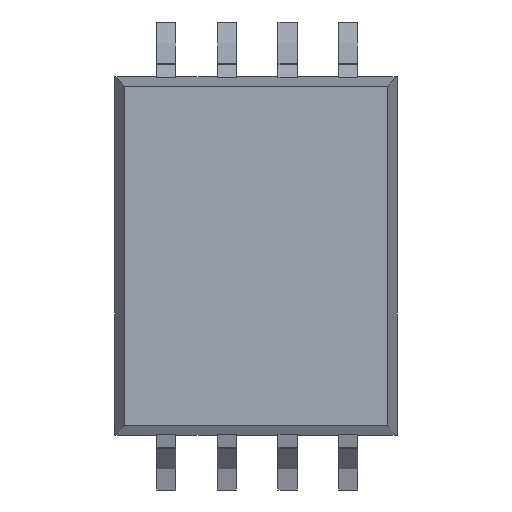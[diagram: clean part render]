
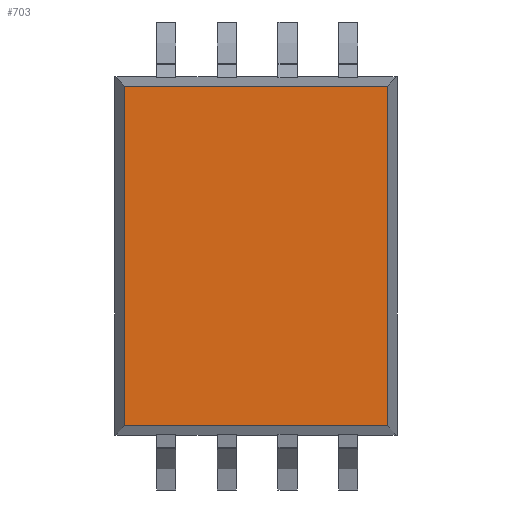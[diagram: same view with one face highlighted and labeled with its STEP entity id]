
A CAD part, top view. The second image highlights one B-rep face of the part: STEP entity #703.
In plain terms, the highlighted planar face has unit normal (0, 0, 1).
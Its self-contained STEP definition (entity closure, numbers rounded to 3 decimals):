
#32 = PLANE('',#33);
#33 = AXIS2_PLACEMENT_3D('',#34,#35,#36);
#34 = CARTESIAN_POINT('',(2.852,0.,
    1.662));
#35 = DIRECTION('',(0.982,0.,0.187));
#36 = DIRECTION('',(-0.187,0.,0.982));
#57 = VERTEX_POINT('',#58);
#58 = CARTESIAN_POINT('',(2.75,3.55,2.2));
#72 = PLANE('',#73);
#73 = AXIS2_PLACEMENT_3D('',#74,#75,#76);
#74 = CARTESIAN_POINT('',(0.,3.653,1.66));
#75 = DIRECTION('',(0.,0.982,0.187));
#76 = DIRECTION('',(0.,-0.187,0.982));
#84 = EDGE_CURVE('',#85,#57,#87,.T.);
#85 = VERTEX_POINT('',#86);
#86 = CARTESIAN_POINT('',(2.75,-3.55,2.2));
#87 = SURFACE_CURVE('',#88,(#92,#99),.PCURVE_S1.);
#88 = LINE('',#89,#90);
#89 = CARTESIAN_POINT('',(2.75,-3.55,2.2));
#90 = VECTOR('',#91,1.);
#91 = DIRECTION('',(0.,1.,0.));
#92 = PCURVE('',#32,#93);
#93 = DEFINITIONAL_REPRESENTATION('',(#94),#98);
#94 = LINE('',#95,#96);
#95 = CARTESIAN_POINT('',(0.547,3.55));
#96 = VECTOR('',#97,1.);
#97 = DIRECTION('',(0.,-1.));
#98 = ( GEOMETRIC_REPRESENTATION_CONTEXT(2) 
PARAMETRIC_REPRESENTATION_CONTEXT() REPRESENTATION_CONTEXT('2D SPACE',''
  ) );
#99 = PCURVE('',#100,#105);
#100 = PLANE('',#101);
#101 = AXIS2_PLACEMENT_3D('',#102,#103,#104);
#102 = CARTESIAN_POINT('',(0.,0.,2.2)
  );
#103 = DIRECTION('',(0.,0.,1.));
#104 = DIRECTION('',(1.,0.,0.));
#105 = DEFINITIONAL_REPRESENTATION('',(#106),#110);
#106 = LINE('',#107,#108);
#107 = CARTESIAN_POINT('',(2.75,-3.55));
#108 = VECTOR('',#109,1.);
#109 = DIRECTION('',(0.,1.));
#110 = ( GEOMETRIC_REPRESENTATION_CONTEXT(2) 
PARAMETRIC_REPRESENTATION_CONTEXT() REPRESENTATION_CONTEXT('2D SPACE',''
  ) );
#126 = PLANE('',#127);
#127 = AXIS2_PLACEMENT_3D('',#128,#129,#130);
#128 = CARTESIAN_POINT('',(0.,-3.653,1.66));
#129 = DIRECTION('',(0.,-0.982,0.187)
  );
#130 = DIRECTION('',(0.,-0.187,-0.982));
#253 = VERTEX_POINT('',#254);
#254 = CARTESIAN_POINT('',(-2.75,3.55,2.2));
#268 = PLANE('',#269);
#269 = AXIS2_PLACEMENT_3D('',#270,#271,#272);
#270 = CARTESIAN_POINT('',(-2.852,0.,1.662));
#271 = DIRECTION('',(-0.982,0.,0.187)
  );
#272 = DIRECTION('',(-0.187,0.,-0.982));
#280 = EDGE_CURVE('',#57,#253,#281,.T.);
#281 = SURFACE_CURVE('',#282,(#286,#293),.PCURVE_S1.);
#282 = LINE('',#283,#284);
#283 = CARTESIAN_POINT('',(2.75,3.55,2.2));
#284 = VECTOR('',#285,1.);
#285 = DIRECTION('',(-1.,0.,0.));
#286 = PCURVE('',#72,#287);
#287 = DEFINITIONAL_REPRESENTATION('',(#288),#292);
#288 = LINE('',#289,#290);
#289 = CARTESIAN_POINT('',(0.55,2.75));
#290 = VECTOR('',#291,1.);
#291 = DIRECTION('',(0.,-1.));
#292 = ( GEOMETRIC_REPRESENTATION_CONTEXT(2) 
PARAMETRIC_REPRESENTATION_CONTEXT() REPRESENTATION_CONTEXT('2D SPACE',''
  ) );
#293 = PCURVE('',#100,#294);
#294 = DEFINITIONAL_REPRESENTATION('',(#295),#299);
#295 = LINE('',#296,#297);
#296 = CARTESIAN_POINT('',(2.75,3.55));
#297 = VECTOR('',#298,1.);
#298 = DIRECTION('',(-1.,0.));
#299 = ( GEOMETRIC_REPRESENTATION_CONTEXT(2) 
PARAMETRIC_REPRESENTATION_CONTEXT() REPRESENTATION_CONTEXT('2D SPACE',''
  ) );
#703 = ADVANCED_FACE('',(#704),#100,.T.);
#704 = FACE_BOUND('',#705,.T.);
#705 = EDGE_LOOP('',(#706,#707,#708,#731));
#706 = ORIENTED_EDGE('',*,*,#84,.T.);
#707 = ORIENTED_EDGE('',*,*,#280,.T.);
#708 = ORIENTED_EDGE('',*,*,#709,.T.);
#709 = EDGE_CURVE('',#253,#710,#712,.T.);
#710 = VERTEX_POINT('',#711);
#711 = CARTESIAN_POINT('',(-2.75,-3.55,2.2));
#712 = SURFACE_CURVE('',#713,(#717,#724),.PCURVE_S1.);
#713 = LINE('',#714,#715);
#714 = CARTESIAN_POINT('',(-2.75,3.55,2.2));
#715 = VECTOR('',#716,1.);
#716 = DIRECTION('',(0.,-1.,0.));
#717 = PCURVE('',#100,#718);
#718 = DEFINITIONAL_REPRESENTATION('',(#719),#723);
#719 = LINE('',#720,#721);
#720 = CARTESIAN_POINT('',(-2.75,3.55));
#721 = VECTOR('',#722,1.);
#722 = DIRECTION('',(0.,-1.));
#723 = ( GEOMETRIC_REPRESENTATION_CONTEXT(2) 
PARAMETRIC_REPRESENTATION_CONTEXT() REPRESENTATION_CONTEXT('2D SPACE',''
  ) );
#724 = PCURVE('',#268,#725);
#725 = DEFINITIONAL_REPRESENTATION('',(#726),#730);
#726 = LINE('',#727,#728);
#727 = CARTESIAN_POINT('',(-0.547,-3.55));
#728 = VECTOR('',#729,1.);
#729 = DIRECTION('',(0.,1.));
#730 = ( GEOMETRIC_REPRESENTATION_CONTEXT(2) 
PARAMETRIC_REPRESENTATION_CONTEXT() REPRESENTATION_CONTEXT('2D SPACE',''
  ) );
#731 = ORIENTED_EDGE('',*,*,#732,.T.);
#732 = EDGE_CURVE('',#710,#85,#733,.T.);
#733 = SURFACE_CURVE('',#734,(#738,#745),.PCURVE_S1.);
#734 = LINE('',#735,#736);
#735 = CARTESIAN_POINT('',(-2.75,-3.55,2.2));
#736 = VECTOR('',#737,1.);
#737 = DIRECTION('',(1.,0.,0.));
#738 = PCURVE('',#100,#739);
#739 = DEFINITIONAL_REPRESENTATION('',(#740),#744);
#740 = LINE('',#741,#742);
#741 = CARTESIAN_POINT('',(-2.75,-3.55));
#742 = VECTOR('',#743,1.);
#743 = DIRECTION('',(1.,0.));
#744 = ( GEOMETRIC_REPRESENTATION_CONTEXT(2) 
PARAMETRIC_REPRESENTATION_CONTEXT() REPRESENTATION_CONTEXT('2D SPACE',''
  ) );
#745 = PCURVE('',#126,#746);
#746 = DEFINITIONAL_REPRESENTATION('',(#747),#751);
#747 = LINE('',#748,#749);
#748 = CARTESIAN_POINT('',(-0.55,-2.75));
#749 = VECTOR('',#750,1.);
#750 = DIRECTION('',(0.,1.));
#751 = ( GEOMETRIC_REPRESENTATION_CONTEXT(2) 
PARAMETRIC_REPRESENTATION_CONTEXT() REPRESENTATION_CONTEXT('2D SPACE',''
  ) );
